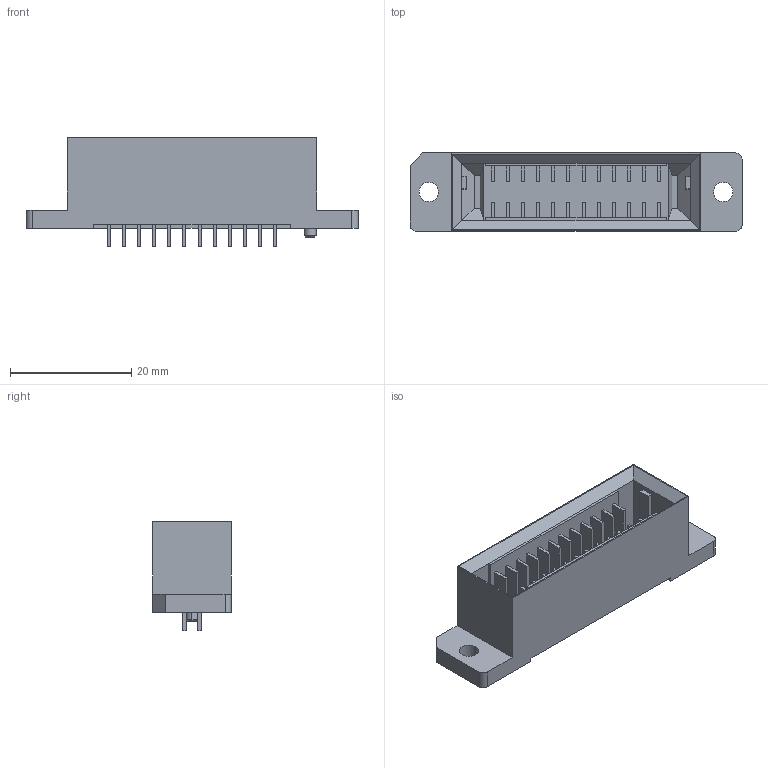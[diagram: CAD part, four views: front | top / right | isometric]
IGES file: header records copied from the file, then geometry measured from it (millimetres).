
Start section: Elysium IGES Interface
Bounding box: 54.8 x 12.9 x 18 mm (x, y, z)
Volume: 4423.6 mm3; surface area: 5438 mm2
Topology: 1 solids, 1 shells, 284 faces, 750 edges, 494 vertices
Faces by surface type: bspline 284
